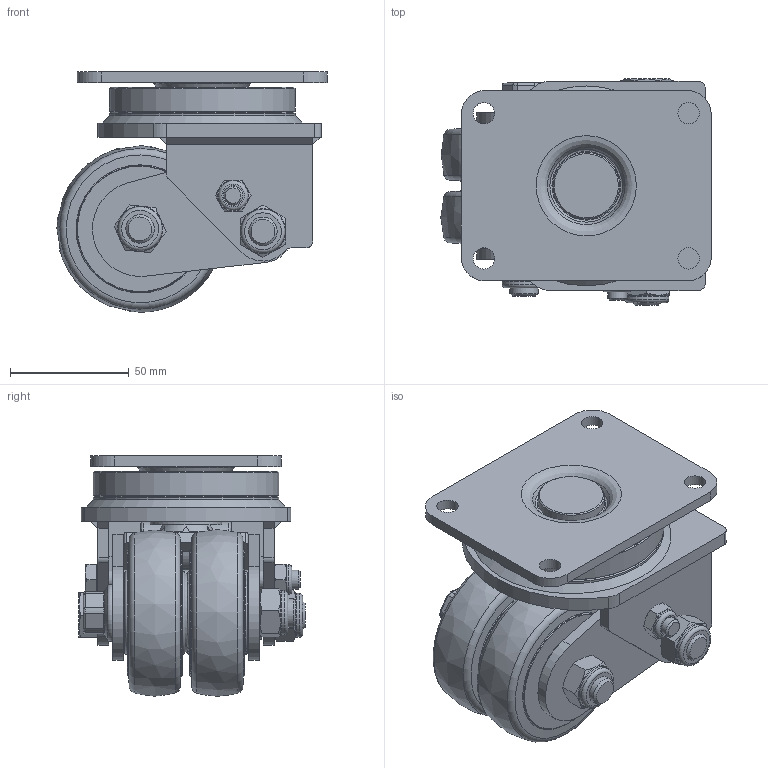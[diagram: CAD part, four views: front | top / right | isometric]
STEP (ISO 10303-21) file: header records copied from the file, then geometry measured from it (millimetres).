
FILE_DESCRIPTION(/* description */ (''),/* implementation_level */ '2;1');
FILE_NAME(/* name */ '\\192.168.10.38\지덕공유\1.기술연구소\1.도면\특주제품도면\59711-1111111,59714-1111111_GASD-70-ASF-HUD(XUD)_20231120\3D\3d_간소화\GASD-70-ASF-HUD_Total Height 110-9_101.stp',/* time_stamp */ '2024-07-23T09:59:34+09:00',/* author */ ('admin'),/* organization */ (''),/* preprocessor_version */ 'ST-DEVELOPER v18.1',/* originating_system */ 'Autodesk Inventor 2021',/* authorisation */ '');
FILE_SCHEMA (('AUTOMOTIVE_DESIGN { 1 0 10303 214 3 1 1 }'));
Length unit declared in the file: millimetre
Products named in the file (1): S-GAGDSD-70-ASF-HUD_Total Height 110-9_101_Shrinkwrap_1
Bounding box: 113.61 x 95 x 100.98 mm (x, y, z)
Volume: 432987.7 mm3; surface area: 109826.3 mm2
Topology: 1 solids, 5 shells, 709 faces, 1850 edges, 1183 vertices
Faces by surface type: plane 307, cylinder 198, cone 109, torus 65, bspline 28, sphere 2
Full cylindrical faces by diameter (mm): 8 x2, 9 x4, 10 x8, 11.63 x1, 12 x4, 12.5 x1, 14 x2, 14.5 x1, 18.5 x2, 20 x2, 28 x1, 30 x1, 33 x5, 35 x8, 45 x2, 78 x2
Entity records: 23871 total; most frequent: CARTESIAN_POINT 5762, ORIENTED_EDGE 3690, DIRECTION 3634, EDGE_CURVE 1845, AXIS2_PLACEMENT_3D 1401, VERTEX_POINT 1183, LINE 832, VECTOR 832
